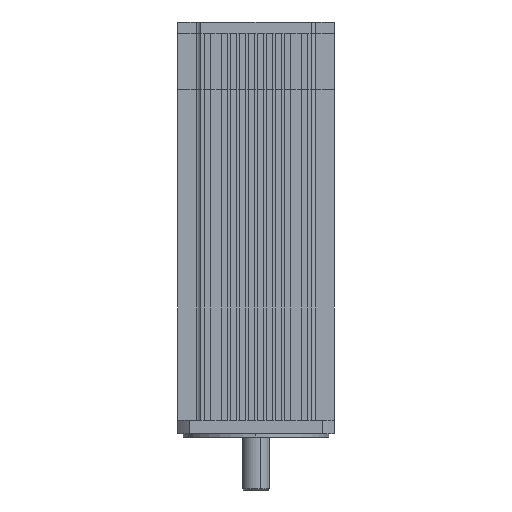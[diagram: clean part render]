
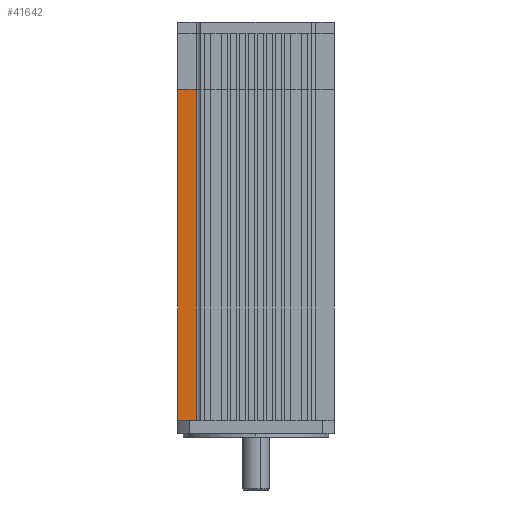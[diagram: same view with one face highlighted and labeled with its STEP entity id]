
A CAD part, front view. The second image highlights one B-rep face of the part: STEP entity #41642.
In plain terms, the highlighted planar face has unit normal (0, -1, 0).
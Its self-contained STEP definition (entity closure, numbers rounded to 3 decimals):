
#38036=CARTESIAN_POINT('',(-70.,-49.3,0.0));
#38037=VERTEX_POINT('',#38036);
#38038=CARTESIAN_POINT('',(-53.3,-49.3,0.0));
#38039=VERTEX_POINT('',#38038);
#38040=CARTESIAN_POINT('',(-70.,-49.3,0.0));
#38041=DIRECTION('',(1.0,0.0,0.0));
#38042=VECTOR('',#38041,16.7);
#38043=LINE('',#38040,#38042);
#38044=EDGE_CURVE('',#38037,#38039,#38043,.T.);
#41599=CARTESIAN_POINT('',(-53.3,-49.3,295.0));
#41600=VERTEX_POINT('',#41599);
#41608=CARTESIAN_POINT('',(-53.3,-49.3,0.0));
#41609=DIRECTION('',(0.0,0.0,1.0));
#41610=VECTOR('',#41609,295.0);
#41611=LINE('',#41608,#41610);
#41612=EDGE_CURVE('',#38039,#41600,#41611,.T.);
#41619=CARTESIAN_POINT('',(-53.3,-49.3,0.0));
#41620=DIRECTION('',(0.0,-1.0,0.0));
#41621=DIRECTION('',(0.0,0.0,-1.0));
#41622=AXIS2_PLACEMENT_3D('',#41619,#41620,#41621);
#41623=PLANE('',#41622);
#41624=CARTESIAN_POINT('',(-70.,-49.3,295.0));
#41625=VERTEX_POINT('',#41624);
#41626=CARTESIAN_POINT('',(-53.3,-49.3,295.0));
#41627=DIRECTION('',(-1.0,0.0,0.0));
#41628=VECTOR('',#41627,16.7);
#41629=LINE('',#41626,#41628);
#41630=EDGE_CURVE('',#41600,#41625,#41629,.T.);
#41631=ORIENTED_EDGE('',*,*,#41630,.T.);
#41632=CARTESIAN_POINT('',(-70.,-49.3,0.0));
#41633=DIRECTION('',(0.0,0.0,1.0));
#41634=VECTOR('',#41633,295.0);
#41635=LINE('',#41632,#41634);
#41636=EDGE_CURVE('',#38037,#41625,#41635,.T.);
#41637=ORIENTED_EDGE('',*,*,#41636,.F.);
#41638=ORIENTED_EDGE('',*,*,#38044,.T.);
#41639=ORIENTED_EDGE('',*,*,#41612,.T.);
#41640=EDGE_LOOP('',(#41631,#41637,#41638,#41639));
#41641=FACE_OUTER_BOUND('',#41640,.T.);
#41642=ADVANCED_FACE('',(#41641),#41623,.T.);
